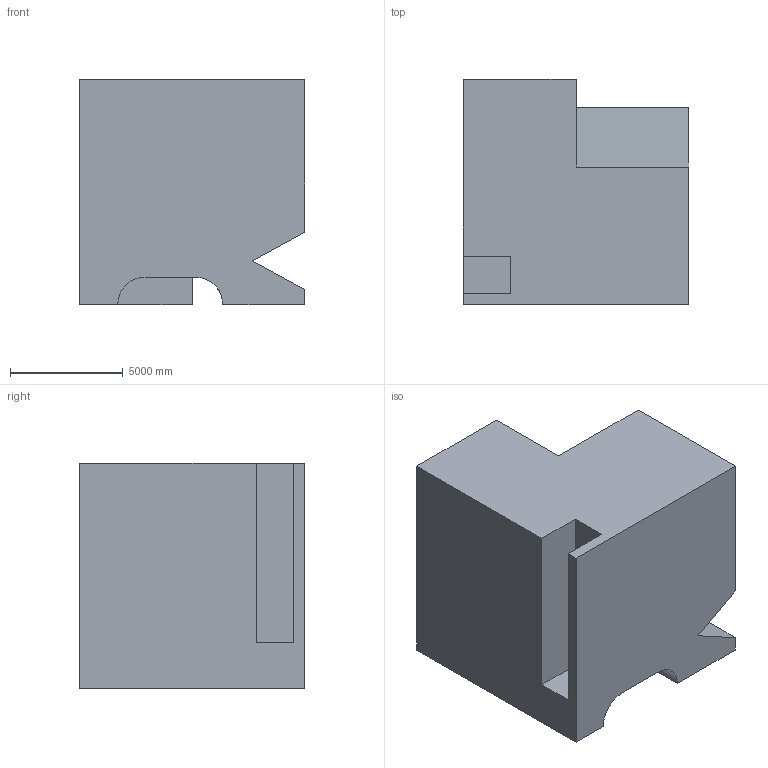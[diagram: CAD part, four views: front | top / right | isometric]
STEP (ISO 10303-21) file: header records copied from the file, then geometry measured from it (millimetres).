
FILE_DESCRIPTION (( 'STEP AP203' ), '1' );
FILE_NAME ('30.STEP', '2022-08-30T14:05:30', ( 'user' ), ( '' ), 'SwSTEP 2.0', 'SolidWorks 2021', '' );
FILE_SCHEMA (( 'CONFIG_CONTROL_DESIGN' ));
Length unit declared in the file: centimetre
Products named in the file (1): 30
Bounding box: 10000 x 10000 x 10000 mm (x, y, z)
Volume: 784841498882.3 mm3; surface area: 620278902.7 mm2
Topology: 1 solids, 1 shells, 21 faces, 57 edges, 38 vertices
Faces by surface type: plane 19, cylinder 2
Entity records: 731 total; most frequent: CARTESIAN_POINT 120, ORIENTED_EDGE 114, DIRECTION 103, EDGE_CURVE 57, LINE 53, VECTOR 53, VERTEX_POINT 38, AXIS2_PLACEMENT_3D 25
